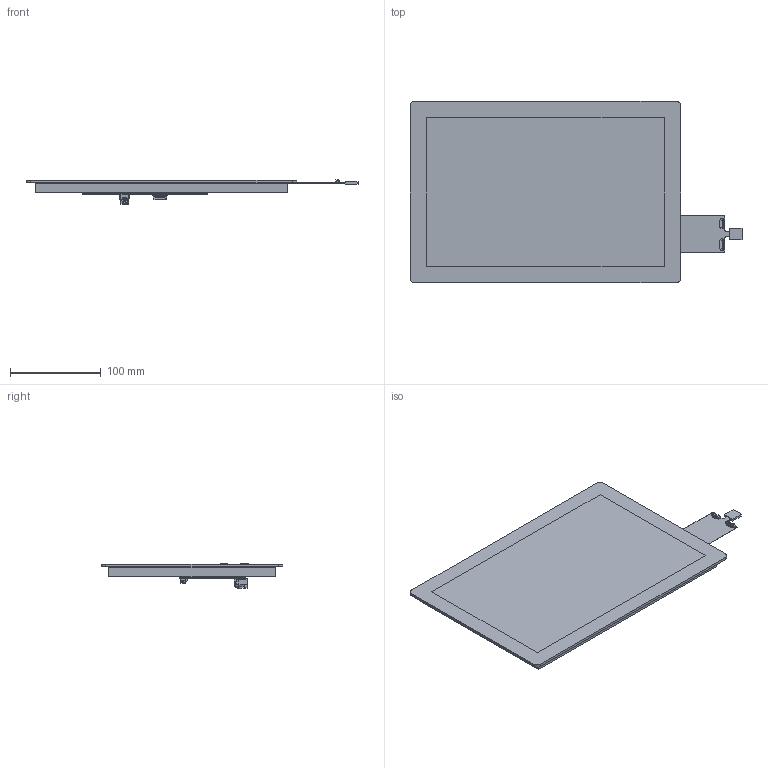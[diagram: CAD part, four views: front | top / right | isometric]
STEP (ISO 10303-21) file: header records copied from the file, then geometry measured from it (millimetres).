
FILE_DESCRIPTION (( 'STEP AP214' ), '1' );
FILE_NAME ('PDC121W-001 REV P1.STEP', '2025-10-23T22:36:42', ( '' ), ( '' ), 'SwSTEP 2.0', 'SolidWorks 2020', '' );
FILE_SCHEMA (( 'AUTOMOTIVE_DESIGN' ));
Length unit declared in the file: millimetre
Products named in the file (13): S3B-PH-SM4-TB(LF)(SN)_3; S3B-PH-SM4-TB(LF)(SN)_5; S3B-PH-SM4-TB(LF)(SN)_6; S3B-PH-SM4-TB(LF)(SN)_4; 10029449-111RLF; 532610671; S3B-PH-SM4-TB_LF__SN_; S3B-PH-SM4-TB(LF)(SN)_2; PDC121W-001 REV P1; PJ-002AH-SMT-TR; PDC121W-001 DISPLAY; 532610571; S3B-PH-SM4-TB(LF)(SN)
Assembly tree (12 placements, depth 3):
  PDC121W-001 REV P1
    PDC121W-001 DISPLAY
    532610671
    532610571
    PJ-002AH-SMT-TR
    S3B-PH-SM4-TB_LF__SN_
      S3B-PH-SM4-TB(LF)(SN)_3
      S3B-PH-SM4-TB(LF)(SN)_6
      S3B-PH-SM4-TB(LF)(SN)_4
      S3B-PH-SM4-TB(LF)(SN)
      S3B-PH-SM4-TB(LF)(SN)_2
      S3B-PH-SM4-TB(LF)(SN)_5
    10029449-111RLF
Bounding box: 365.9 x 200.32 x 26.89 mm (x, y, z)
Volume: 752550 mm3; surface area: 387208 mm2
Topology: 16 solids, 20 shells, 2663 faces, 7422 edges, 4756 vertices
Faces by surface type: plane 2140, cylinder 405, bspline 82, cone 36
Entity records: 88432 total; most frequent: CARTESIAN_POINT 18861, ORIENTED_EDGE 14678, DIRECTION 12702, EDGE_CURVE 7398, LINE 5850, VECTOR 5850, VERTEX_POINT 4756, AXIS2_PLACEMENT_3D 3426
